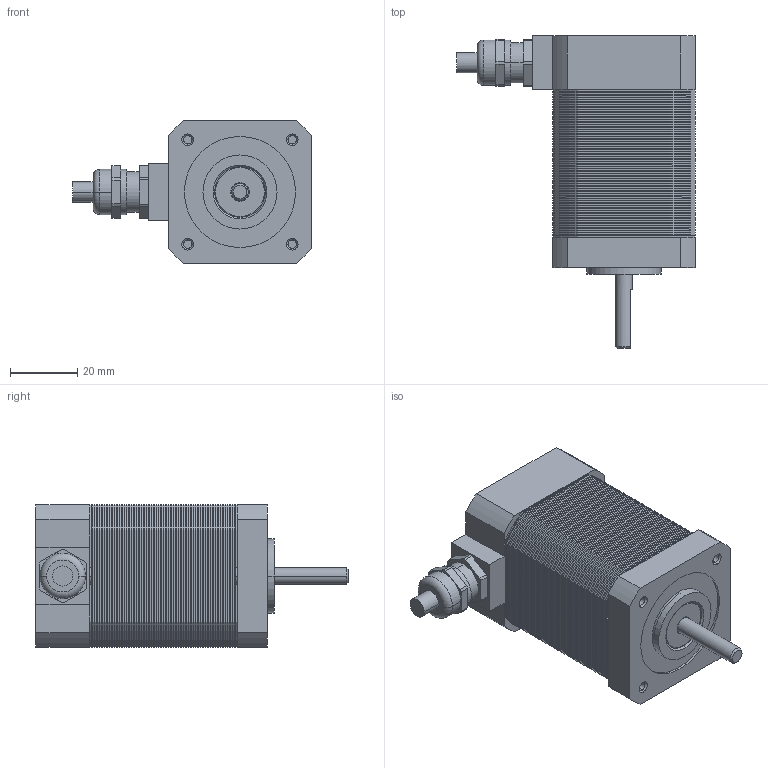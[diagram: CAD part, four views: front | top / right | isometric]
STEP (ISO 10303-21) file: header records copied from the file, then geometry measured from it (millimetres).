
FILE_DESCRIPTION((''),'2;1');
FILE_NAME('3_1_01_042_1842_SW0005','2021-11-29T11:06:31',('yangle'),(''),'CREO PARAMETRIC BY PTC INC, 2017110','CREO PARAMETRIC BY PTC INC, 2017110','');
FILE_SCHEMA(('CONFIG_CONTROL_DESIGN'));
Length unit declared in the file: millimetre
Products named in the file (1): 3_1_01_042_1842_SW0005
Bounding box: 70.8 x 92.8 x 42.3 mm (x, y, z)
Surface area: 18463.3 mm2 (no closed solid volume)
Topology: 0 solids, 101 shells, 866 faces, 2688 edges, 1822 vertices
Faces by surface type: plane 434, cylinder 406, cone 12, sphere 8, torus 6
Entity records: 29087 total; most frequent: CARTESIAN_POINT 5611, DIRECTION 5338, ORIENTED_EDGE 3734, EDGE_CURVE 2688, VERTEX_POINT 1822, AXIS2_PLACEMENT_3D 1802, VECTOR 1734, LINE 1734
